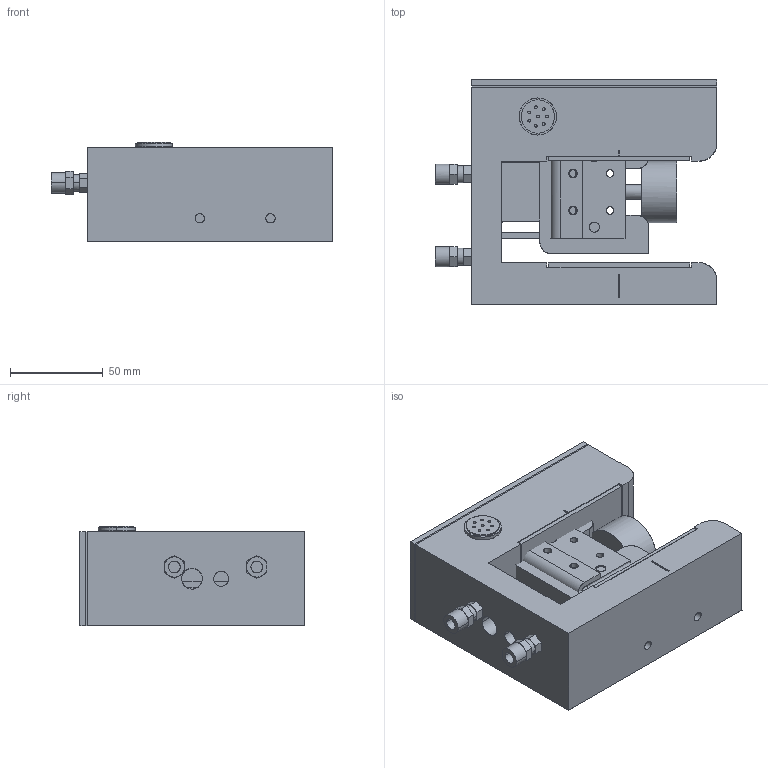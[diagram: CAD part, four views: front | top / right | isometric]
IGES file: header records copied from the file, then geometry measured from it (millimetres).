
Global section: file name: J:\WIP\FIFE WEB\3D (Models)\Model_SE-38_67350-G.igs; native system: AutoCAD-17.1s (LMS Tech) (Microsoft Windows NT Version 5.1 (x86)); preprocessor: Autodesk IGES Translator Mechanical Desktop 2008 (Feb 13 2007) from Autodesk, Inc.; date: 20080111.140444; units: inch
Bounding box: 151.89 x 120.94 x 53.77 mm (x, y, z)
Surface area: 154741.8 mm2 (no closed solid volume)
Topology: 0 solids, 0 shells, 345 faces, 3407 edges, 3520 vertices
Faces by surface type: bspline 345
